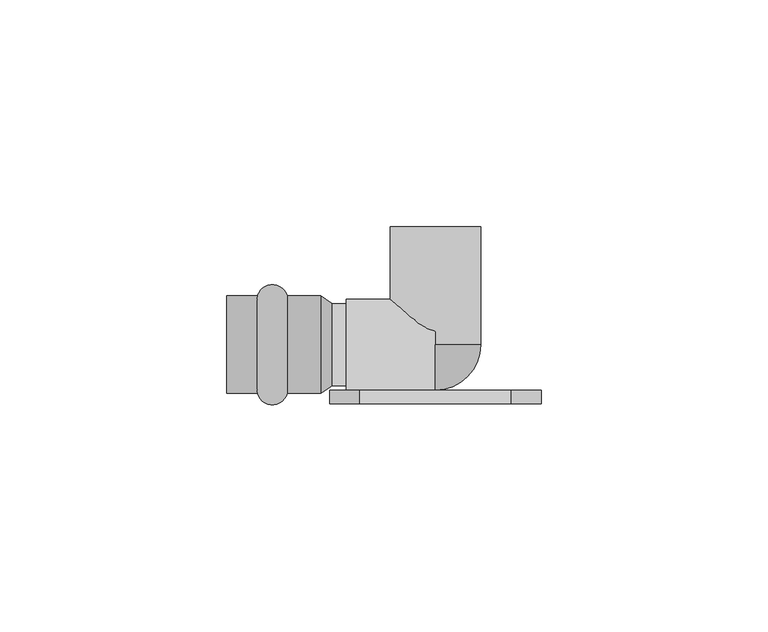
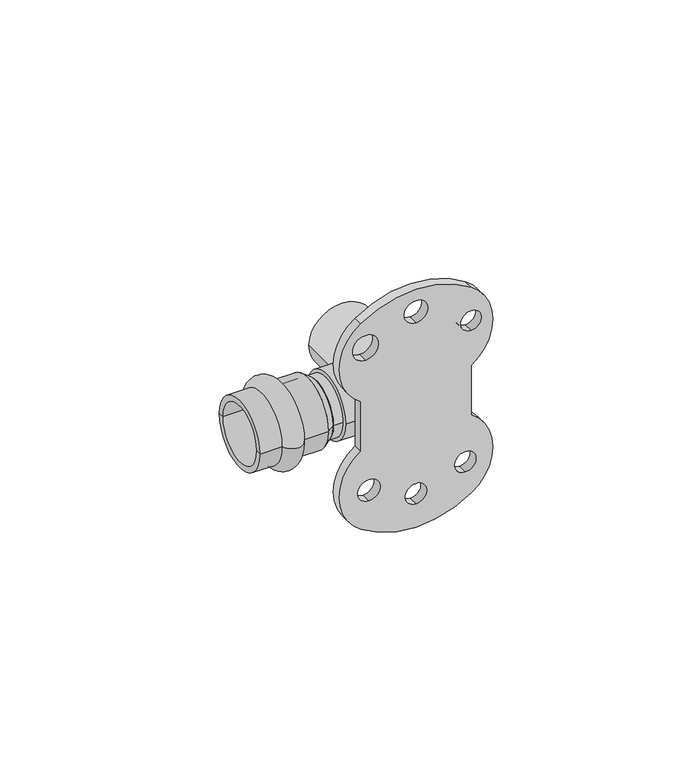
"""IFC4 building model written with IfcOpenShell, lengths in millimetres: pipe fitting geometry, VALTEC_VTi.954.I_Водорозетка : VTi.954.I."""

from ifc_helpers import new_model, si_unit, point, frame, frame_2d, origin, origin_2d, place, context, project, spatial, polyline, circle_curve, ellipse_curve, trimmed, segment, composite_curve, outline, extrude, source, transform, mapped, element, save
from ifc_brep_helpers import plane_surface, cylinder_surface, revolved_surface, advanced_brep


def pipe_fitting_71989629(model_context):
    return source(origin(), model_context, "Body", "SolidModel", [
        advanced_brep(
        [(-39.2287193, -10.75, 0.0), (-39.2287193, 10.75, 0.0), (-32.6712807, 10.75, 0.0), (-32.6712807, -10.75, 0.0), (-46.0, -10.75, 0.0), (-46.0, 10.75, 0.0), (-46.0, -9.0, 0.0), (-46.0, 9.0, 0.0), (-25.3, -9.0, 0.0), (-25.3, 9.0, 0.0), (-25.3, -10.75, 0.0), (-25.3, 10.75, 0.0)],
        [
            (0, 1, circle_curve(frame((-39.2287193, 0.0, 0.0), z_axis=(1.0, 0.0, 0.0), x_axis=(0.0, 1.0, 0.0)), 10.75)),
            (1, 2, circle_curve(frame((-35.95, 9.85, 0.0), z_axis=(0.0, 0.0, -1.0), x_axis=(1.0, 0.0, 0.0)), 3.4)),
            (2, 3, circle_curve(frame((-32.6712807, 0.0, 0.0), z_axis=(-1.0, 0.0, 0.0), x_axis=(0.0, 1.0, 0.0)), 10.75)),
            (3, 0, circle_curve(frame((-35.95, -9.85, 0.0), z_axis=(0.0, 0.0, -1.0), x_axis=(1.0, 0.0, 0.0)), 3.4)),
            (1, 0, circle_curve(frame((-39.2287193, 0.0, 0.0), z_axis=(1.0, 0.0, 0.0), x_axis=(0.0, 1.0, 0.0)), 10.75)),
            (3, 2, circle_curve(frame((-32.6712807, 0.0, 0.0), z_axis=(-1.0, 0.0, 0.0), x_axis=(0.0, 1.0, 0.0)), 10.75)),
            (4, 5, circle_curve(frame((-46.0, 0.0, 0.0), z_axis=(1.0, 0.0, 0.0), x_axis=(0.0, 1.0, 0.0)), 10.75)),
            (5, 1),
            (0, 4),
            (5, 4, circle_curve(frame((-46.0, 0.0, 0.0), z_axis=(1.0, 0.0, 0.0), x_axis=(0.0, 1.0, 0.0)), 10.75)),
            (6, 7, circle_curve(frame((-46.0, 0.0, 0.0), z_axis=(1.0, 0.0, 0.0), x_axis=(0.0, 1.0, 0.0)), 9.0)),
            (7, 5),
            (4, 6),
            (7, 6, circle_curve(frame((-46.0, 0.0, 0.0), z_axis=(1.0, 0.0, 0.0), x_axis=(0.0, 1.0, 0.0)), 9.0)),
            (8, 9, circle_curve(frame((-25.3, 0.0, 0.0), z_axis=(1.0, 0.0, 0.0), x_axis=(0.0, 1.0, 0.0)), 9.0)),
            (9, 7),
            (6, 8),
            (9, 8, circle_curve(frame((-25.3, 0.0, 0.0), z_axis=(1.0, 0.0, 0.0), x_axis=(0.0, 1.0, 0.0)), 9.0)),
            (10, 11, circle_curve(frame((-25.3, 0.0, 0.0), z_axis=(1.0, 0.0, 0.0), x_axis=(0.0, 1.0, 0.0)), 10.75)),
            (11, 9),
            (8, 10),
            (11, 10, circle_curve(frame((-25.3, 0.0, 0.0), z_axis=(1.0, 0.0, 0.0), x_axis=(0.0, 1.0, 0.0)), 10.75)),
            (2, 11),
            (10, 3),
        ],
        [
            revolved_surface(trimmed(ellipse_curve(frame((-35.95, 9.85, 0.0), z_axis=(0.0, 0.0, 1.0), x_axis=(1.0, 0.0, 0.0)), 3.4, 3.4), [point((-32.6712807, 10.75, 0.0))], [point((-39.2287193, 10.75, 0.0))], True, "CARTESIAN"), (-49.5364426, 0.0, 0.0), (-1.0, 0.0, 0.0)),
            cylinder_surface(frame((-49.5364426, 0.0, 0.0), z_axis=(-1.0, 0.0, 0.0), x_axis=(0.0, 1.0, 0.0)), 10.75),
            plane_surface(frame((-46.0, 0.0, 0.0), z_axis=(-1.0, 0.0, 0.0), x_axis=(0.0, 1.0, 0.0))),
            revolved_surface(polyline([(-46.0, 9.0, 0.0), (-25.3, 9.0, 0.0)]), (-49.5364426, 0.0, 0.0), (-1.0, 0.0, 0.0)),
            plane_surface(frame((-25.3, 0.0, 0.0), z_axis=(1.0, 0.0, 0.0), x_axis=(0.0, 1.0, 0.0))),
        ],
        [
            (0, [[1, 2, 3, 4]]),
            (0, [[5, -4, 6, -2]]),
            (1, [[7, 8, -1, 9]]),
            (1, [[10, -9, -5, -8]]),
            (2, [[11, 12, -7, 13]]),
            (2, [[14, -13, -10, -12]]),
            (3, [[15, 16, -11, 17]]),
            (3, [[18, -17, -14, -16]]),
            (4, [[19, 20, -15, 21]]),
            (4, [[22, -21, -18, -20]]),
            (1, [[-3, 23, -19, 24]]),
            (1, [[-6, -24, -22, -23]]),
        ],
    ),
        extrude(outline(composite_curve([segment(polyline([(-7.9880122, 16.7174213), (7.9880122, 16.7174213)]), True, "CONTINUOUS"), segment(trimmed(circle_curve(frame_2d((20.4880122, 8.2246929)), 15.1121288), [point((7.9880122, 16.7174213))], [point((32.9880122, 16.7174213))], False, "CARTESIAN"), True, "CONTINUOUS"), segment(trimmed(circle_curve(frame_2d((8.3825197, 0.0)), 29.7473098), [point((32.9880122, 16.7174213))], [point((32.9880122, -16.7174213))], False, "CARTESIAN"), True, "CONTINUOUS"), segment(trimmed(circle_curve(frame_2d((20.4880122, -8.2246929)), 15.1121288), [point((32.9880122, -16.7174213))], [point((7.9880122, -16.7174213))], False, "CARTESIAN"), True, "CONTINUOUS"), segment(polyline([(7.9880122, -16.7174213), (-7.9880122, -16.7174213)]), True, "CONTINUOUS"), segment(trimmed(circle_curve(frame_2d((-20.4880122, -8.2246929)), 15.1121288), [point((-7.9880122, -16.7174213))], [point((-32.9880122, -16.7174213))], False, "CARTESIAN"), True, "CONTINUOUS"), segment(trimmed(circle_curve(frame_2d((-8.3825197, 0.0)), 29.7473098), [point((-32.9880122, -16.7174213))], [point((-32.9880122, 16.7174213))], False, "CARTESIAN"), True, "CONTINUOUS"), segment(trimmed(circle_curve(frame_2d((-20.4880122, 8.2246929)), 15.1121288), [point((-32.9880122, 16.7174213))], [point((-7.9880122, 16.7174213))], False, "CARTESIAN"), True, "CONTINUOUS")], self_intersect=False), holes=[composite_curve([segment(trimmed(circle_curve(frame_2d((-22.4078456, 14.9572115)), 3.2586084), [point((-19.1492372, 14.9572115))], [point((-25.6664541, 14.9572115))], True, "CARTESIAN"), True, "CONTINUOUS"), segment(trimmed(circle_curve(frame_2d((-22.4078456, 14.9572115)), 3.2586084), [point((-25.6664541, 14.9572115))], [point((-19.1492372, 14.9572115))], True, "CARTESIAN"), True, "CONTINUOUS")], self_intersect=False), composite_curve([segment(trimmed(circle_curve(frame_2d((-27.3898654, 0.0)), 3.2507226), [point((-24.1391428, 0.0))], [point((-30.640588, 0.0))], True, "CARTESIAN"), True, "CONTINUOUS"), segment(trimmed(circle_curve(frame_2d((-27.3898654, 0.0)), 3.2507226), [point((-30.640588, 0.0))], [point((-24.1391428, 0.0))], True, "CARTESIAN"), True, "CONTINUOUS")], self_intersect=False), composite_curve([segment(trimmed(circle_curve(frame_2d((-21.2868912, -14.3121545)), 3.401561), [point((-17.8853302, -14.3121545))], [point((-24.6884522, -14.3121545))], True, "CARTESIAN"), True, "CONTINUOUS"), segment(trimmed(circle_curve(frame_2d((-21.2868912, -14.3121545)), 3.401561), [point((-24.6884522, -14.3121545))], [point((-17.8853302, -14.3121545))], True, "CARTESIAN"), True, "CONTINUOUS")], self_intersect=False), composite_curve([segment(trimmed(circle_curve(frame_2d((22.3057816, 16.7174213)), 3.1302653), [point((25.4360468, 16.7174213))], [point((19.1755163, 16.7174213))], True, "CARTESIAN"), True, "CONTINUOUS"), segment(trimmed(circle_curve(frame_2d((22.3057816, 16.7174213)), 3.1302653), [point((19.1755163, 16.7174213))], [point((25.4360468, 16.7174213))], True, "CARTESIAN"), True, "CONTINUOUS")], self_intersect=False), composite_curve([segment(trimmed(circle_curve(frame_2d((31.0243161, 0.0)), 3.5243161), [point((34.5486322, 0.0))], [point((27.5, 0.0))], True, "CARTESIAN"), True, "CONTINUOUS"), segment(trimmed(circle_curve(frame_2d((31.0243161, 0.0)), 3.5243161), [point((27.5, 0.0))], [point((34.5486322, 0.0))], True, "CARTESIAN"), True, "CONTINUOUS")], self_intersect=False), composite_curve([segment(trimmed(circle_curve(frame_2d((24.75, -15.3085584)), 3.9300859), [point((28.6800859, -15.3085584))], [point((20.8199141, -15.3085584))], True, "CARTESIAN"), True, "CONTINUOUS"), segment(trimmed(circle_curve(frame_2d((24.75, -15.3085584)), 3.9300859), [point((20.8199141, -15.3085584))], [point((28.6800859, -15.3085584))], True, "CARTESIAN"), True, "CONTINUOUS")], self_intersect=False)]), frame((0.0, -13.0, 0.0), z_axis=(0.0, 1.0, 0.0), x_axis=(0.0, 0.0, 1.0)), (0.0, 0.0, 1.0), 3.0),
        advanced_brep(
        [(0.0, 0.0, -10.0), (0.0, 0.0, 10.0)],
        [
            (0, 1, circle_curve(frame((0.0, 0.0, 0.0), z_axis=(-1.0, 0.0, 0.0), x_axis=(0.0, -1.0, 0.0)), 10.0)),
            (1, 0),
            (1, 0, circle_curve(frame((0.0, 0.0, 0.0), z_axis=(0.0, 1.0, 0.0), x_axis=(1.0, 0.0, 0.0)), 10.0)),
        ],
        [
            plane_surface(frame((0.0, 0.0, 1.732782), z_axis=(-1.0, 0.0, 0.0), x_axis=(0.0, -1.0, 0.0))),
            plane_surface(frame((0.0, 0.0, 1.732782), z_axis=(0.0, 1.0, 0.0), x_axis=(1.0, 0.0, 0.0))),
            revolved_surface(trimmed(ellipse_curve(frame((0.0, 0.0, 0.0), z_axis=(-1.0, 0.0, 0.0), x_axis=(0.0, -1.0, 0.0)), 10.0, 10.0), [point((0.0, 0.0, -10.0))], [point((0.0, 0.0, 10.0))], True, "CARTESIAN"), (0.0, 0.0, 1.732782), (0.0, 0.0, 1.0)),
        ],
        [
            (0, [[1, 2]]),
            (1, [[3, -2]]),
            (2, [[-1, -3]]),
        ],
    ),
        extrude(outline(composite_curve([segment(trimmed(circle_curve(origin_2d(), 10.0), [point((-10.0, 0.0))], [point((10.0, 0.0))], False, "CARTESIAN"), True, "CONTINUOUS"), segment(trimmed(circle_curve(origin_2d(), 10.0), [point((10.0, 0.0))], [point((-10.0, 0.0))], False, "CARTESIAN"), True, "CONTINUOUS")], self_intersect=False)), frame((-19.6390217, 0.0, 0.0), z_axis=(1.0, 0.0, 0.0), x_axis=(0.0, 1.0, 0.0)), (0.0, 0.0, 1.0), 19.6390217),
        extrude(outline(composite_curve([segment(trimmed(circle_curve(origin_2d(), 10.0), [point((0.0, -10.0))], [point((0.0, 10.0))], False, "CARTESIAN"), True, "CONTINUOUS"), segment(trimmed(circle_curve(origin_2d(), 10.0), [point((0.0, 10.0))], [point((0.0, -10.0))], False, "CARTESIAN"), True, "CONTINUOUS")], self_intersect=False), holes=[composite_curve([segment(trimmed(circle_curve(origin_2d(), 7.5), [point((0.0, -7.5))], [point((0.0, 7.5))], True, "CARTESIAN"), True, "CONTINUOUS"), segment(trimmed(circle_curve(origin_2d(), 7.5), [point((0.0, 7.5))], [point((0.0, -7.5))], True, "CARTESIAN"), True, "CONTINUOUS")], self_intersect=False)]), frame((0.0, 0.0, 0.0), z_axis=(0.0, 1.0, 0.0), x_axis=(0.0, 0.0, 1.0)), (0.0, 0.0, 1.0), 26.0),
        extrude(outline(composite_curve([segment(trimmed(circle_curve(origin_2d(), 9.0), [point((-9.0, 0.0))], [point((9.0, 0.0))], False, "CARTESIAN"), True, "CONTINUOUS"), segment(trimmed(circle_curve(origin_2d(), 9.0), [point((9.0, 0.0))], [point((-9.0, 0.0))], False, "CARTESIAN"), True, "CONTINUOUS")], self_intersect=False)), frame((-22.77, 0.0, 0.0), z_axis=(1.0, 0.0, 0.0), x_axis=(0.0, 1.0, 0.0)), (0.0, 0.0, 1.0), 3.1309783),
        advanced_brep(
        [(-25.3, -10.75, 0.0), (-25.3, 10.75, 0.0), (-22.77, -9.0, 0.0), (-22.77, 9.0, 0.0)],
        [
            (0, 1, circle_curve(frame((-25.3, 0.0, 0.0), z_axis=(-1.0, 0.0, 0.0), x_axis=(0.0, -1.0, 0.0)), 10.75)),
            (1, 0, circle_curve(frame((-25.3, 0.0, 0.0), z_axis=(-1.0, 0.0, 0.0), x_axis=(0.0, 1.0, 0.0)), 10.75)),
            (2, 3, circle_curve(frame((-22.77, 0.0, 0.0), z_axis=(1.0, 0.0, 0.0), x_axis=(0.0, 1.0, 0.0)), 9.0)),
            (3, 2, circle_curve(frame((-22.77, 0.0, 0.0), z_axis=(1.0, 0.0, 0.0), x_axis=(0.0, -1.0, 0.0)), 9.0)),
            (2, 0),
            (1, 3),
        ],
        [
            plane_surface(frame((-25.3, 0.0, 0.0), z_axis=(-1.0, 0.0, 0.0), x_axis=(0.0, 0.0, -1.0))),
            plane_surface(frame((-22.77, 0.0, 0.0), z_axis=(1.0, 0.0, 0.0), x_axis=(0.0, 0.0, -1.0))),
            revolved_surface(polyline([(-22.77, -9.000000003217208, 0.0), (-25.3, -10.75, 0.0)]), (-9.7585714, 0.0, 0.0), (-1.0, 0.0, 0.0)),
            revolved_surface(polyline([(-22.77, 9.000000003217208, 0.0), (-25.3, 10.75, 0.0)]), (-9.7585714, 0.0, 0.0), (-1.0, 0.0, 0.0)),
        ],
        [
            (0, [[1, 2]]),
            (1, [[3, 4]]),
            (2, [[-3, 5, -2, 6]]),
            (3, [[-4, -6, -1, -5]]),
        ],
    ),
    ])


if __name__ == "__main__":
    model = new_model("IFC4")
    model_context = context("Model", 3, world=origin())
    ifc_project = project(units=[si_unit("LENGTHUNIT", "METRE", prefix="MILLI")], contexts=[model_context])
    site = spatial("IfcSite", under=ifc_project)
    building = spatial("IfcBuilding", under=site)
    placement = place(None, origin())
    pipe_fitting_shape = pipe_fitting_71989629(model_context)
    element("IfcPipeFitting", 1, ObjectType="VALTEC_VTi.954.I_Водорозетка : VTi.954.I", at=placement, inside=building, context=model_context, shape_type="MappedRepresentation", body=[
        mapped(pipe_fitting_shape, transform((0.0, 0.0, 0.0), x_axis=(1.0, 0.0, 0.0), y_axis=(0.0, 1.0, 0.0), z_axis=(0.0, 0.0, 1.0))),
    ])
    save(model, "model.ifc")
